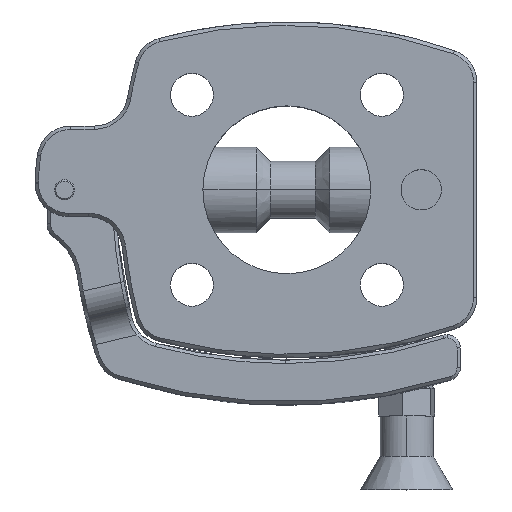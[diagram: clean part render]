
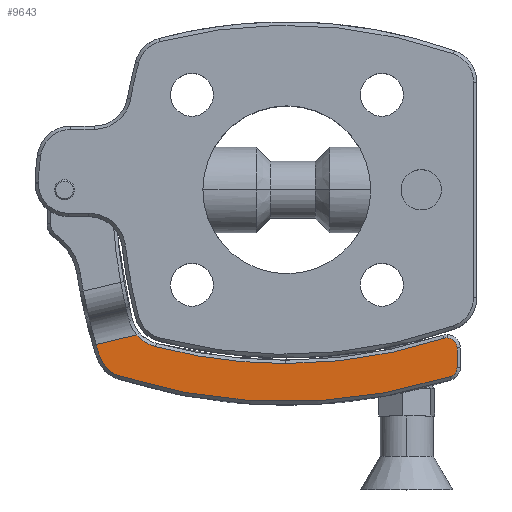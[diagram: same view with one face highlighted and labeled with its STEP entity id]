
A CAD part, top view. The second image highlights one B-rep face of the part: STEP entity #9643.
In plain terms, the highlighted planar face has unit normal (0, 0, 1).
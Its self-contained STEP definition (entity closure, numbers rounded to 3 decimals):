
#439 = LINE ( 'NONE', #10274, #25691 ) ;
#616 = ORIENTED_EDGE ( 'NONE', *, *, #14549, .T. ) ;
#794 = ORIENTED_EDGE ( 'NONE', *, *, #22733, .T. ) ;
#1137 = VERTEX_POINT ( 'NONE', #8654 ) ;
#1360 = DIRECTION ( 'NONE',  ( 0., -1., 0. ) ) ;
#1636 = DIRECTION ( 'NONE',  ( 0., 0., 1. ) ) ;
#1779 = CARTESIAN_POINT ( 'NONE',  ( -27.843, -24.774, -0.2 ) ) ;
#2268 = DIRECTION ( 'NONE',  ( 0., 1., 0. ) ) ;
#2614 = CARTESIAN_POINT ( 'NONE',  ( 23.85, -23.53, -0.2 ) ) ;
#2838 = DIRECTION ( 'NONE',  ( 0., 0., 1. ) ) ;
#2930 = CARTESIAN_POINT ( 'NONE',  ( -0.15, -25.85, -0.2 ) ) ;
#2993 = EDGE_CURVE ( 'NONE', #1137, #14423, #7484, .T. ) ;
#3014 = CARTESIAN_POINT ( 'NONE',  ( -19.564, -23.322, -0.2 ) ) ;
#3381 = ORIENTED_EDGE ( 'NONE', *, *, #12523, .T. ) ;
#3794 = DIRECTION ( 'NONE',  ( 0., 1., 0. ) ) ;
#3825 = VERTEX_POINT ( 'NONE', #18347 ) ;
#4234 = LINE ( 'NONE', #13835, #9696 ) ;
#4318 = DIRECTION ( 'NONE',  ( 0., 0., 1. ) ) ;
#4612 = CARTESIAN_POINT ( 'NONE',  ( 23.85, -22.03, -0.2 ) ) ;
#4663 = CARTESIAN_POINT ( 'NONE',  ( 24.3, -27.796, -0.2 ) ) ;
#4840 = DIRECTION ( 'NONE',  ( 0., 0., 1. ) ) ;
#5445 = ORIENTED_EDGE ( 'NONE', *, *, #18422, .F. ) ;
#5768 = VERTEX_POINT ( 'NONE', #3014 ) ;
#6038 = ORIENTED_EDGE ( 'NONE', *, *, #23607, .T. ) ;
#6209 = EDGE_LOOP ( 'NONE', ( #5445, #10385, #17373, #17745, #26186, #20798, #794, #12959, #6038, #616, #3381 ) ) ;
#6263 = CARTESIAN_POINT ( 'NONE',  ( -24.924, -27.693, -0.2 ) ) ;
#6715 = CARTESIAN_POINT ( 'NONE',  ( -23.556, -23.406, -0.2 ) ) ;
#7484 = CIRCLE ( 'NONE', #18214, 1.5 ) ;
#7810 = CIRCLE ( 'NONE', #20289, 75.8 ) ;
#8209 = AXIS2_PLACEMENT_3D ( 'NONE', #25419, #2838, #21317 ) ;
#8654 = CARTESIAN_POINT ( 'NONE',  ( 25.35, -23.53, -0.2 ) ) ;
#8801 = EDGE_CURVE ( 'NONE', #5768, #9534, #17843, .T. ) ;
#9534 = VERTEX_POINT ( 'NONE', #11843 ) ;
#9643 = ADVANCED_FACE ( 'NONE', ( #11204 ), #19660, .T. ) ;
#9696 = VECTOR ( 'NONE', #15922, 1000. ) ;
#10111 = CARTESIAN_POINT ( 'NONE',  ( 23.85, -26.365, -0.2 ) ) ;
#10274 = CARTESIAN_POINT ( 'NONE',  ( -22.336, -21.578, -0.2 ) ) ;
#10385 = ORIENTED_EDGE ( 'NONE', *, *, #21155, .T. ) ;
#10674 = DIRECTION ( 'NONE',  ( 0., -1., 0. ) ) ;
#10768 = DIRECTION ( 'NONE',  ( 0., 1., 0. ) ) ;
#11204 = FACE_OUTER_BOUND ( 'NONE', #6209, .T. ) ;
#11433 = CIRCLE ( 'NONE', #16302, 1.5 ) ;
#11478 = AXIS2_PLACEMENT_3D ( 'NONE', #13630, #25809, #1360 ) ;
#11843 = CARTESIAN_POINT ( 'NONE',  ( -22.336, -21.578, -0.2 ) ) ;
#12236 = CIRCLE ( 'NONE', #16773, 81.5 ) ;
#12523 = EDGE_CURVE ( 'NONE', #13138, #21929, #15836, .T. ) ;
#12601 = VERTEX_POINT ( 'NONE', #15303 ) ;
#12910 = DIRECTION ( 'NONE',  ( 0., 0., 1. ) ) ;
#12959 = ORIENTED_EDGE ( 'NONE', *, *, #8801, .T. ) ;
#13007 = DIRECTION ( 'NONE',  ( 0., 0., -1. ) ) ;
#13138 = VERTEX_POINT ( 'NONE', #1779 ) ;
#13630 = CARTESIAN_POINT ( 'NONE',  ( 23.85, -25.152, -0.2 ) ) ;
#13835 = CARTESIAN_POINT ( 'NONE',  ( 25.35, -25.152, -0.2 ) ) ;
#14349 = DIRECTION ( 'NONE',  ( 0., -1., 0. ) ) ;
#14423 = VERTEX_POINT ( 'NONE', #4612 ) ;
#14549 = EDGE_CURVE ( 'NONE', #3825, #13138, #17052, .T. ) ;
#15181 = AXIS2_PLACEMENT_3D ( 'NONE', #20556, #24746, #14349 ) ;
#15303 = CARTESIAN_POINT ( 'NONE',  ( 23.384, -22.104, -0.2 ) ) ;
#15836 = CIRCLE ( 'NONE', #15899, 4.5 ) ;
#15885 = DIRECTION ( 'NONE',  ( 0., 1., 0. ) ) ;
#15899 = AXIS2_PLACEMENT_3D ( 'NONE', #6715, #12910, #16682 ) ;
#15922 = DIRECTION ( 'NONE',  ( 0., 1., 0. ) ) ;
#16009 = DIRECTION ( 'NONE',  ( 0., 0., -1. ) ) ;
#16275 = AXIS2_PLACEMENT_3D ( 'NONE', #2614, #4840, #10768 ) ;
#16302 = AXIS2_PLACEMENT_3D ( 'NONE', #10111, #1636, #15885 ) ;
#16440 = CARTESIAN_POINT ( 'NONE',  ( 23.85, -23.53, -0.2 ) ) ;
#16682 = DIRECTION ( 'NONE',  ( 0., 1., 0. ) ) ;
#16773 = AXIS2_PLACEMENT_3D ( 'NONE', #20381, #16009, #3794 ) ;
#17052 = CIRCLE ( 'NONE', #8209, 81.5 ) ;
#17074 = EDGE_CURVE ( 'NONE', #22661, #1137, #4234, .T. ) ;
#17373 = ORIENTED_EDGE ( 'NONE', *, *, #17074, .T. ) ;
#17555 = EDGE_CURVE ( 'NONE', #14423, #12601, #20202, .T. ) ;
#17745 = ORIENTED_EDGE ( 'NONE', *, *, #2993, .T. ) ;
#17843 = CIRCLE ( 'NONE', #18586, 5.5 ) ;
#18214 = AXIS2_PLACEMENT_3D ( 'NONE', #16440, #4318, #2268 ) ;
#18235 = CARTESIAN_POINT ( 'NONE',  ( 25.35, -26.365, -0.2 ) ) ;
#18278 = DIRECTION ( 'NONE',  ( -0.973, -0.229, 0. ) ) ;
#18347 = CARTESIAN_POINT ( 'NONE',  ( -28.387, -23.001, -0.2 ) ) ;
#18422 = EDGE_CURVE ( 'NONE', #24007, #21929, #12236, .T. ) ;
#18586 = AXIS2_PLACEMENT_3D ( 'NONE', #25190, #13007, #21178 ) ;
#19660 = PLANE ( 'NONE',  #11478 ) ;
#20202 = CIRCLE ( 'NONE', #16275, 1.5 ) ;
#20289 = AXIS2_PLACEMENT_3D ( 'NONE', #26091, #20899, #10674 ) ;
#20381 = CARTESIAN_POINT ( 'NONE',  ( -0.15, 49.95, -0.2 ) ) ;
#20556 = CARTESIAN_POINT ( 'NONE',  ( -0.15, 49.95, -0.2 ) ) ;
#20798 = ORIENTED_EDGE ( 'NONE', *, *, #22918, .T. ) ;
#20899 = DIRECTION ( 'NONE',  ( 0., 0., -1. ) ) ;
#21155 = EDGE_CURVE ( 'NONE', #24007, #22661, #11433, .T. ) ;
#21178 = DIRECTION ( 'NONE',  ( 0., -1., 0. ) ) ;
#21317 = DIRECTION ( 'NONE',  ( 0., 1., 0. ) ) ;
#21871 = CIRCLE ( 'NONE', #15181, 75.8 ) ;
#21929 = VERTEX_POINT ( 'NONE', #6263 ) ;
#22490 = VERTEX_POINT ( 'NONE', #2930 ) ;
#22661 = VERTEX_POINT ( 'NONE', #18235 ) ;
#22733 = EDGE_CURVE ( 'NONE', #22490, #5768, #21871, .T. ) ;
#22918 = EDGE_CURVE ( 'NONE', #12601, #22490, #7810, .T. ) ;
#23607 = EDGE_CURVE ( 'NONE', #9534, #3825, #439, .T. ) ;
#24007 = VERTEX_POINT ( 'NONE', #4663 ) ;
#24746 = DIRECTION ( 'NONE',  ( 0., 0., -1. ) ) ;
#25190 = CARTESIAN_POINT ( 'NONE',  ( -18.155, -18.005, -0.2 ) ) ;
#25419 = CARTESIAN_POINT ( 'NONE',  ( 49.8, 0., -0.2 ) ) ;
#25691 = VECTOR ( 'NONE', #18278, 1000. ) ;
#25809 = DIRECTION ( 'NONE',  ( 0., 0., 1. ) ) ;
#26091 = CARTESIAN_POINT ( 'NONE',  ( -0.15, 49.95, -0.2 ) ) ;
#26186 = ORIENTED_EDGE ( 'NONE', *, *, #17555, .T. ) ;
